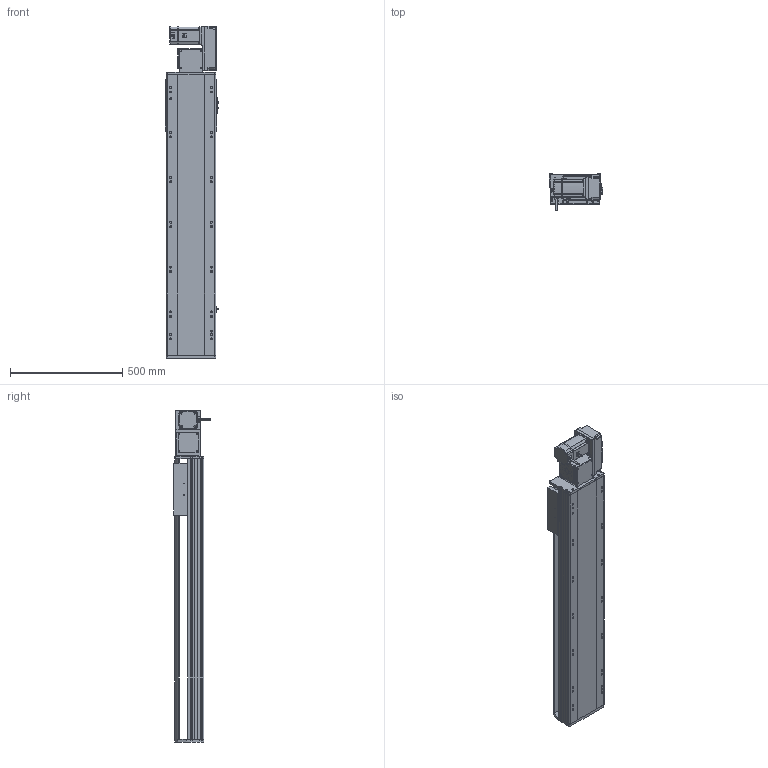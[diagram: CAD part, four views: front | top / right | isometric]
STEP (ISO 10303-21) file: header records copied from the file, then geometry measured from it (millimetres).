
FILE_DESCRIPTION (( 'STEP AP214' ), '1' );
FILE_NAME ('RTB22S-XX-900-R-M75-C4.STEP', '2025-12-12T07:18:57', ( '' ), ( '' ), 'SwSTEP 2.0', 'SolidWorks 2018', '' );
FILE_SCHEMA (( 'AUTOMOTIVE_DESIGN' ));
Length unit declared in the file: millimetre
Products named in the file (14): RTB22S-GY-018P^RTB22S-R-々湍釱蚾饜_RTB22S-XX-XX-R-M75-C4; RTB22S-R-々湍釱蚾饜^RTB22S-XX-XX-R-M75-C4; RTH22-GY-013外置感应片^RTB22S-XX-XX-R-M75-C4; RTB22S-GY-017P^RTB22S-R-々湍釱蚾饜_RTB22S-XX-XX-R-M75-C4; RTB22S-GY-007奻裔^RTB22S-XX-XX-R-M75-C4; RTB22S-XX-900-R-M75-C4; RTB22S-GY-005P^RTB22S-R-々湍釱蚾饜_RTB22S-XX-XX-R-M75-C4; RTB22S-L-004賑釱^RTB22S-XX-XX-R-M75-C4; OMRON EE-SX672 传感器^RTB22S-XX-XX-R-M75-C4; RTB22S-GY-008-M75--萇儂啣^RTB22S-R-々湍釱蚾饜_RTB22S-XX-XX-R-M75-C4; RTB22S-GY-014--々湍釱^RTB22S-R-々湍釱蚾饜_RTB22S-XX-XX-R-M75-C4; 750W萇儂^RTB22S-XX-XX-R-M75-C4; RTB22S-L-011菁釱^RTB22S-XX-XX-R-M75-C4; RTB22S-GY-001耜裔^RTB22S-XX-XX-R-M75-C4
Assembly tree (16 placements, depth 3):
  RTB22S-XX-900-R-M75-C4
    RTB22S-L-011菁釱^RTB22S-XX-XX-R-M75-C4
    RTB22S-GY-001耜裔^RTB22S-XX-XX-R-M75-C4
    750W萇儂^RTB22S-XX-XX-R-M75-C4
    RTB22S-GY-007奻裔^RTB22S-XX-XX-R-M75-C4
    RTB22S-L-004賑釱^RTB22S-XX-XX-R-M75-C4
    RTH22-GY-013外置感应片^RTB22S-XX-XX-R-M75-C4
    OMRON EE-SX672 传感器^RTB22S-XX-XX-R-M75-C4  x3
    RTB22S-R-々湍釱蚾饜^RTB22S-XX-XX-R-M75-C4
      RTB22S-GY-014--々湍釱^RTB22S-R-々湍釱蚾饜_RTB22S-XX-XX-R-M75-C4
      RTB22S-GY-017P^RTB22S-R-々湍釱蚾饜_RTB22S-XX-XX-R-M75-C4  x2
      RTB22S-GY-005P^RTB22S-R-々湍釱蚾饜_RTB22S-XX-XX-R-M75-C4
      RTB22S-GY-008-M75--萇儂啣^RTB22S-R-々湍釱蚾饜_RTB22S-XX-XX-R-M75-C4
      RTB22S-GY-018P^RTB22S-R-々湍釱蚾饜_RTB22S-XX-XX-R-M75-C4
Bounding box: 238.5 x 162.7 x 1479 mm (x, y, z)
Volume: 20122951.7 mm3; surface area: 2100201.6 mm2
Topology: 15 solids, 15 shells, 1965 faces, 5336 edges, 3422 vertices
Faces by surface type: plane 913, cylinder 610, bspline 296, cone 134, sphere 8, torus 4
Entity records: 52110 total; most frequent: CARTESIAN_POINT 15024, ORIENTED_EDGE 7468, DIRECTION 7168, EDGE_CURVE 3734, AXIS2_PLACEMENT_3D 2522, VERTEX_POINT 2426, LINE 2124, VECTOR 2124
